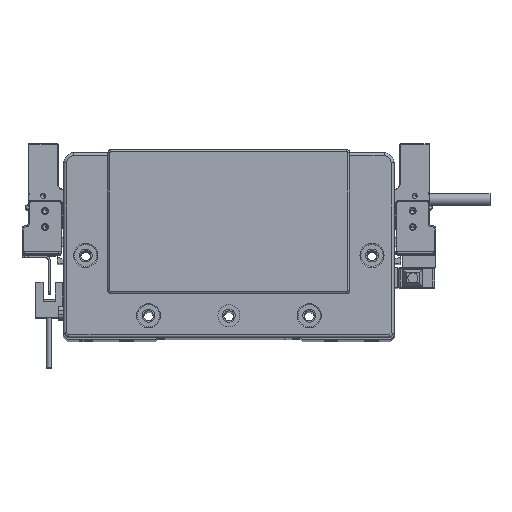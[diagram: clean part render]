
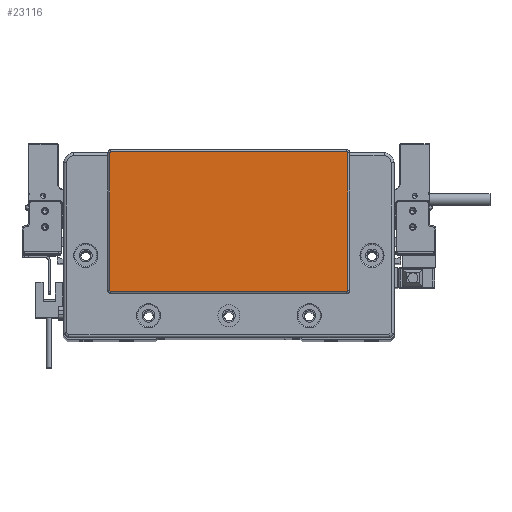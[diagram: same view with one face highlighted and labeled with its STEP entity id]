
A CAD part, top view. The second image highlights one B-rep face of the part: STEP entity #23116.
In plain terms, the highlighted planar face has unit normal (0, 0, 1) as drawn and (0, 0, -1) by its records, which use the part's own axes.
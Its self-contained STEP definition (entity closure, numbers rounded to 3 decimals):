
#547 = CARTESIAN_POINT ( 'NONE',  ( 59.25, -23.3, -2. ) ) ;
#1484 = CARTESIAN_POINT ( 'NONE',  ( -59.25, -23.3, -2. ) ) ;
#2349 = DIRECTION ( 'NONE',  ( -1., 0., 0. ) ) ;
#3097 = EDGE_CURVE ( 'NONE', #9299, #62038, #23867, .T. ) ;
#4614 = VERTEX_POINT ( 'NONE', #67667 ) ;
#5009 = CARTESIAN_POINT ( 'NONE',  ( 58.75, -23.8, -2. ) ) ;
#5487 = EDGE_CURVE ( 'NONE', #4614, #66859, #18193, .T. ) ;
#6315 = AXIS2_PLACEMENT_3D ( 'NONE', #48567, #73589, #17405 ) ;
#6506 = CARTESIAN_POINT ( 'NONE',  ( -58.75, 45.8, -2. ) ) ;
#7241 = VERTEX_POINT ( 'NONE', #6506 ) ;
#9299 = VERTEX_POINT ( 'NONE', #1484 ) ;
#9577 = CIRCLE ( 'NONE', #76313, 0.5 ) ;
#10164 = ORIENTED_EDGE ( 'NONE', *, *, #41180, .T. ) ;
#14407 = CARTESIAN_POINT ( 'NONE',  ( -58.75, -23.8, -2. ) ) ;
#14667 = DIRECTION ( 'NONE',  ( 0., 0., -1. ) ) ;
#15556 = CARTESIAN_POINT ( 'NONE',  ( 58.75, 45.8, -2. ) ) ;
#17405 = DIRECTION ( 'NONE',  ( -1., 0., 0. ) ) ;
#18193 = CIRCLE ( 'NONE', #81075, 0.5 ) ;
#18213 = CIRCLE ( 'NONE', #30068, 0.5 ) ;
#19368 = DIRECTION ( 'NONE',  ( 0., -1., 0. ) ) ;
#20191 = EDGE_CURVE ( 'NONE', #7241, #47869, #40158, .T. ) ;
#20198 = DIRECTION ( 'NONE',  ( 0., 0., -1. ) ) ;
#20609 = EDGE_CURVE ( 'NONE', #43283, #9299, #41329, .T. ) ;
#23116 = ADVANCED_FACE ( 'NONE', ( #60880 ), #23553, .T. ) ;
#23553 = PLANE ( 'NONE',  #6315 ) ;
#23867 = LINE ( 'NONE', #54239, #79608 ) ;
#24538 = VECTOR ( 'NONE', #39406, 1000. ) ;
#26314 = EDGE_LOOP ( 'NONE', ( #10164, #46303, #58944, #77348, #48450, #31283, #37550, #45818 ) ) ;
#30068 = AXIS2_PLACEMENT_3D ( 'NONE', #45134, #70158, #52093 ) ;
#31283 = ORIENTED_EDGE ( 'NONE', *, *, #62775, .T. ) ;
#32719 = CARTESIAN_POINT ( 'NONE',  ( -58.75, -23.3, -2. ) ) ;
#32950 = LINE ( 'NONE', #547, #38836 ) ;
#37550 = ORIENTED_EDGE ( 'NONE', *, *, #20191, .T. ) ;
#38301 = EDGE_CURVE ( 'NONE', #47869, #46083, #9577, .T. ) ;
#38836 = VECTOR ( 'NONE', #19368, 1000. ) ;
#39024 = DIRECTION ( 'NONE',  ( 0., 0., -1. ) ) ;
#39406 = DIRECTION ( 'NONE',  ( -1., 0., 0. ) ) ;
#40158 = LINE ( 'NONE', #15556, #50389 ) ;
#40566 = DIRECTION ( 'NONE',  ( 1., 0., 0. ) ) ;
#41180 = EDGE_CURVE ( 'NONE', #46083, #4614, #32950, .T. ) ;
#41329 = CIRCLE ( 'NONE', #43947, 0.5 ) ;
#43283 = VERTEX_POINT ( 'NONE', #58536 ) ;
#43947 = AXIS2_PLACEMENT_3D ( 'NONE', #32719, #14667, #2349 ) ;
#45134 = CARTESIAN_POINT ( 'NONE',  ( -58.75, 45.3, -2. ) ) ;
#45206 = DIRECTION ( 'NONE',  ( -1., 0., 0. ) ) ;
#45818 = ORIENTED_EDGE ( 'NONE', *, *, #38301, .T. ) ;
#46083 = VERTEX_POINT ( 'NONE', #69947 ) ;
#46303 = ORIENTED_EDGE ( 'NONE', *, *, #5487, .T. ) ;
#47869 = VERTEX_POINT ( 'NONE', #72307 ) ;
#48450 = ORIENTED_EDGE ( 'NONE', *, *, #3097, .T. ) ;
#48567 = CARTESIAN_POINT ( 'NONE',  ( 0., 0., -2. ) ) ;
#48879 = DIRECTION ( 'NONE',  ( 0., 1., 0. ) ) ;
#50389 = VECTOR ( 'NONE', #40566, 1000. ) ;
#52093 = DIRECTION ( 'NONE',  ( -1., 0., 0. ) ) ;
#54239 = CARTESIAN_POINT ( 'NONE',  ( -59.25, 45.3, -2. ) ) ;
#56264 = DIRECTION ( 'NONE',  ( -1., 0., 0. ) ) ;
#58536 = CARTESIAN_POINT ( 'NONE',  ( -58.75, -23.8, -2. ) ) ;
#58944 = ORIENTED_EDGE ( 'NONE', *, *, #80828, .T. ) ;
#59837 = CARTESIAN_POINT ( 'NONE',  ( 58.75, 45.3, -2. ) ) ;
#60880 = FACE_OUTER_BOUND ( 'NONE', #26314, .T. ) ;
#62038 = VERTEX_POINT ( 'NONE', #76576 ) ;
#62415 = CARTESIAN_POINT ( 'NONE',  ( 58.75, -23.3, -2. ) ) ;
#62775 = EDGE_CURVE ( 'NONE', #62038, #7241, #18213, .T. ) ;
#66859 = VERTEX_POINT ( 'NONE', #5009 ) ;
#67667 = CARTESIAN_POINT ( 'NONE',  ( 59.25, -23.3, -2. ) ) ;
#69947 = CARTESIAN_POINT ( 'NONE',  ( 59.25, 45.3, -2. ) ) ;
#70158 = DIRECTION ( 'NONE',  ( 0., 0., -1. ) ) ;
#70570 = LINE ( 'NONE', #14407, #24538 ) ;
#72307 = CARTESIAN_POINT ( 'NONE',  ( 58.75, 45.8, -2. ) ) ;
#73589 = DIRECTION ( 'NONE',  ( 0., 0., -1. ) ) ;
#76313 = AXIS2_PLACEMENT_3D ( 'NONE', #59837, #20198, #45206 ) ;
#76576 = CARTESIAN_POINT ( 'NONE',  ( -59.25, 45.3, -2. ) ) ;
#77348 = ORIENTED_EDGE ( 'NONE', *, *, #20609, .T. ) ;
#79608 = VECTOR ( 'NONE', #48879, 1000. ) ;
#80828 = EDGE_CURVE ( 'NONE', #66859, #43283, #70570, .T. ) ;
#81075 = AXIS2_PLACEMENT_3D ( 'NONE', #62415, #39024, #56264 ) ;
